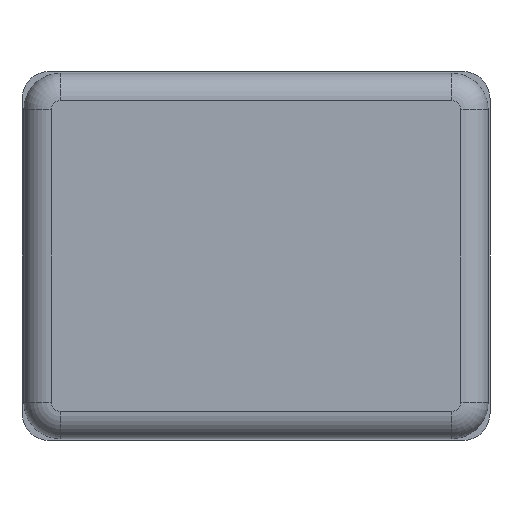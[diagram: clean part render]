
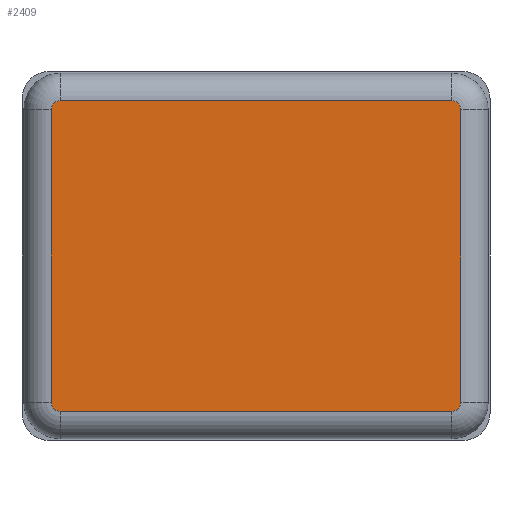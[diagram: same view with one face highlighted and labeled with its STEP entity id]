
A CAD part, front view. The second image highlights one B-rep face of the part: STEP entity #2409.
In plain terms, the highlighted planar face has unit normal (0, -1, 0).
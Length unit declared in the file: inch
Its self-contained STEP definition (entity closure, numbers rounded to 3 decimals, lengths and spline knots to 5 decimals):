
#95 = AXIS2_PLACEMENT_3D ( 'NONE', #4209, #1835, #3570 ) ;
#98 = DIRECTION ( 'NONE',  ( 0., -1., 0. ) ) ;
#147 = EDGE_CURVE ( 'NONE', #2922, #2521, #3849, .T. ) ;
#211 = CIRCLE ( 'NONE', #3866, 0.01969 ) ;
#223 = DIRECTION ( 'NONE',  ( 0., -1., 0. ) ) ;
#231 = EDGE_CURVE ( 'NONE', #3022, #1349, #3500, .T. ) ;
#275 = ORIENTED_EDGE ( 'NONE', *, *, #2589, .T. ) ;
#304 = VECTOR ( 'NONE', #3260, 39.37008 ) ;
#449 = ORIENTED_EDGE ( 'NONE', *, *, #231, .T. ) ;
#570 = FACE_OUTER_BOUND ( 'NONE', #3698, .T. ) ;
#922 = ORIENTED_EDGE ( 'NONE', *, *, #3924, .T. ) ;
#974 = DIRECTION ( 'NONE',  ( 0., -1., 0. ) ) ;
#1146 = DIRECTION ( 'NONE',  ( 1., 0., 0. ) ) ;
#1258 = EDGE_CURVE ( 'NONE', #1349, #1655, #1621, .T. ) ;
#1319 = ORIENTED_EDGE ( 'NONE', *, *, #2465, .T. ) ;
#1332 = CARTESIAN_POINT ( 'NONE',  ( 0.44094, -0.38189, -0.31496 ) ) ;
#1343 = CARTESIAN_POINT ( 'NONE',  ( -0.42126, -0.38189, -0.31496 ) ) ;
#1349 = VERTEX_POINT ( 'NONE', #2790 ) ;
#1502 = DIRECTION ( 'NONE',  ( 0., 0., 1. ) ) ;
#1526 = CARTESIAN_POINT ( 'NONE',  ( 0.44094, -0.38189, 0.31496 ) ) ;
#1532 = LINE ( 'NONE', #2855, #2926 ) ;
#1621 = CIRCLE ( 'NONE', #2372, 0.01969 ) ;
#1628 = EDGE_CURVE ( 'NONE', #1773, #3022, #2137, .T. ) ;
#1641 = LINE ( 'NONE', #1937, #304 ) ;
#1655 = VERTEX_POINT ( 'NONE', #2024 ) ;
#1661 = CARTESIAN_POINT ( 'NONE',  ( -0.44094, -0.38189, 0.31496 ) ) ;
#1665 = DIRECTION ( 'NONE',  ( 0., 0., 1. ) ) ;
#1773 = VERTEX_POINT ( 'NONE', #2853 ) ;
#1783 = VERTEX_POINT ( 'NONE', #3856 ) ;
#1835 = DIRECTION ( 'NONE',  ( 0., 1., 0. ) ) ;
#1849 = DIRECTION ( 'NONE',  ( 0., 0., 1. ) ) ;
#1859 = ORIENTED_EDGE ( 'NONE', *, *, #1258, .T. ) ;
#1919 = VECTOR ( 'NONE', #1146, 39.37008 ) ;
#1937 = CARTESIAN_POINT ( 'NONE',  ( -0.42126, -0.38189, 0.33465 ) ) ;
#2023 = VERTEX_POINT ( 'NONE', #3914 ) ;
#2024 = CARTESIAN_POINT ( 'NONE',  ( 0.42126, -0.38189, 0.33465 ) ) ;
#2137 = CIRCLE ( 'NONE', #2683, 0.01969 ) ;
#2190 = ORIENTED_EDGE ( 'NONE', *, *, #3747, .T. ) ;
#2372 = AXIS2_PLACEMENT_3D ( 'NONE', #2811, #98, #3422 ) ;
#2393 = CARTESIAN_POINT ( 'NONE',  ( 0.42126, -0.38189, -0.31496 ) ) ;
#2409 = ADVANCED_FACE ( 'NONE', ( #570 ), #3159, .F. ) ;
#2465 = EDGE_CURVE ( 'NONE', #2521, #1783, #1532, .T. ) ;
#2521 = VERTEX_POINT ( 'NONE', #1661 ) ;
#2589 = EDGE_CURVE ( 'NONE', #1655, #2922, #1641, .T. ) ;
#2683 = AXIS2_PLACEMENT_3D ( 'NONE', #2393, #3697, #2734 ) ;
#2734 = DIRECTION ( 'NONE',  ( 0., 0., 1. ) ) ;
#2790 = CARTESIAN_POINT ( 'NONE',  ( 0.44094, -0.38189, 0.31496 ) ) ;
#2811 = CARTESIAN_POINT ( 'NONE',  ( 0.42126, -0.38189, 0.31496 ) ) ;
#2853 = CARTESIAN_POINT ( 'NONE',  ( 0.42126, -0.38189, -0.33465 ) ) ;
#2855 = CARTESIAN_POINT ( 'NONE',  ( -0.44094, -0.38189, -0.31496 ) ) ;
#2922 = VERTEX_POINT ( 'NONE', #4155 ) ;
#2926 = VECTOR ( 'NONE', #4182, 39.37008 ) ;
#2941 = VECTOR ( 'NONE', #1849, 39.37008 ) ;
#3022 = VERTEX_POINT ( 'NONE', #1332 ) ;
#3085 = CARTESIAN_POINT ( 'NONE',  ( -0.42126, -0.38189, 0.31496 ) ) ;
#3159 = PLANE ( 'NONE',  #95 ) ;
#3183 = ORIENTED_EDGE ( 'NONE', *, *, #1628, .T. ) ;
#3260 = DIRECTION ( 'NONE',  ( -1., 0., 0. ) ) ;
#3422 = DIRECTION ( 'NONE',  ( 0., 0., 1. ) ) ;
#3500 = LINE ( 'NONE', #1526, #2941 ) ;
#3567 = AXIS2_PLACEMENT_3D ( 'NONE', #3085, #223, #1502 ) ;
#3570 = DIRECTION ( 'NONE',  ( 0., 0., 1. ) ) ;
#3697 = DIRECTION ( 'NONE',  ( 0., -1., 0. ) ) ;
#3698 = EDGE_LOOP ( 'NONE', ( #275, #3861, #1319, #2190, #922, #3183, #449, #1859 ) ) ;
#3747 = EDGE_CURVE ( 'NONE', #1783, #2023, #211, .T. ) ;
#3766 = CARTESIAN_POINT ( 'NONE',  ( 0.42126, -0.38189, -0.33465 ) ) ;
#3849 = CIRCLE ( 'NONE', #3567, 0.01969 ) ;
#3856 = CARTESIAN_POINT ( 'NONE',  ( -0.44094, -0.38189, -0.31496 ) ) ;
#3861 = ORIENTED_EDGE ( 'NONE', *, *, #147, .T. ) ;
#3866 = AXIS2_PLACEMENT_3D ( 'NONE', #1343, #974, #1665 ) ;
#3914 = CARTESIAN_POINT ( 'NONE',  ( -0.42126, -0.38189, -0.33465 ) ) ;
#3924 = EDGE_CURVE ( 'NONE', #2023, #1773, #4026, .T. ) ;
#4026 = LINE ( 'NONE', #3766, #1919 ) ;
#4155 = CARTESIAN_POINT ( 'NONE',  ( -0.42126, -0.38189, 0.33465 ) ) ;
#4182 = DIRECTION ( 'NONE',  ( 0., 0., -1. ) ) ;
#4209 = CARTESIAN_POINT ( 'NONE',  ( 0., -0.38189, 0. ) ) ;
